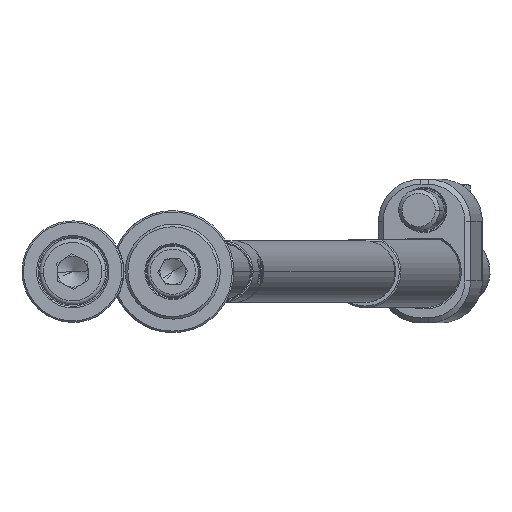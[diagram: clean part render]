
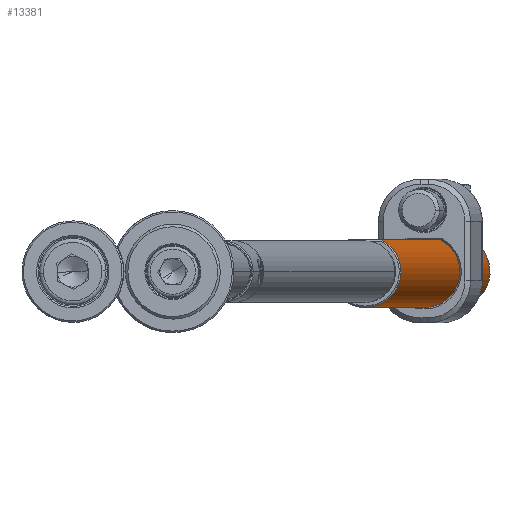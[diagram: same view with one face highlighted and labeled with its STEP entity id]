
A CAD part, front view. The second image highlights one B-rep face of the part: STEP entity #13381.
In plain terms, the highlighted cylindrical face has radius 7 mm (diameter 14 mm), a partial arc.
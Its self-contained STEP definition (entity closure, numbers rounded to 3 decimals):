
#555 = EDGE_CURVE ( 'NONE', #4462, #792, #14087, .T. ) ;
#693 = CARTESIAN_POINT ( 'NONE',  ( 5.78, -3.95, 9.275 ) ) ;
#792 = VERTEX_POINT ( 'NONE', #7894 ) ;
#995 = VERTEX_POINT ( 'NONE', #5182 ) ;
#1044 = EDGE_CURVE ( 'NONE', #4462, #3834, #14251, .T. ) ;
#1046 = CYLINDRICAL_SURFACE ( 'NONE', #11646, 7. ) ;
#1416 = CARTESIAN_POINT ( 'NONE',  ( 6.002, -3.604, 11.745 ) ) ;
#1558 = CARTESIAN_POINT ( 'NONE',  ( 5.876, -3.805, 8.752 ) ) ;
#1959 = VECTOR ( 'NONE', #4368, 1000. ) ;
#2122 = EDGE_CURVE ( 'NONE', #10967, #14265, #13225, .T. ) ;
#2189 = AXIS2_PLACEMENT_3D ( 'NONE', #7297, #12660, #2691 ) ;
#2328 = FACE_OUTER_BOUND ( 'NONE', #5246, .T. ) ;
#2459 = CARTESIAN_POINT ( 'NONE',  ( 6.1, -3.434, 12.052 ) ) ;
#2510 = VERTEX_POINT ( 'NONE', #14031 ) ;
#2691 = DIRECTION ( 'NONE',  ( 1., 0., 0. ) ) ;
#3178 = CARTESIAN_POINT ( 'NONE',  ( -7., 0., 200. ) ) ;
#3224 = CARTESIAN_POINT ( 'NONE',  ( 6.1, -3.434, 7.948 ) ) ;
#3834 = VERTEX_POINT ( 'NONE', #8389 ) ;
#3923 = CARTESIAN_POINT ( 'NONE',  ( 6.2, -3.25, 199.7 ) ) ;
#4067 = CARTESIAN_POINT ( 'NONE',  ( 6.1, -3.434, 12.052 ) ) ;
#4186 = CARTESIAN_POINT ( 'NONE',  ( 6.2, -3.25, 7.5 ) ) ;
#4223 = VERTEX_POINT ( 'NONE', #3923 ) ;
#4368 = DIRECTION ( 'NONE',  ( 0., 0., -1. ) ) ;
#4462 = VERTEX_POINT ( 'NONE', #4633 ) ;
#4517 = B_SPLINE_CURVE_WITH_KNOTS ( 'NONE', 3,
 ( #12470, #11386, #1416, #5875, #12207, #4981, #10673, #12688, #693, #1558, #10385, #7251, #12829, #5948 ),
 .UNSPECIFIED., .F., .F.,
 ( 4, 2, 2, 2, 2, 2, 4 ),
 ( 0., 0.001, 0.001, 0.003, 0.004, 0.004, 0.005 ),
 .UNSPECIFIED. ) ;
#4633 = CARTESIAN_POINT ( 'NONE',  ( 6.2, -3.25, 7.5 ) ) ;
#4981 = CARTESIAN_POINT ( 'NONE',  ( 5.781, -3.95, 10.729 ) ) ;
#5182 = CARTESIAN_POINT ( 'NONE',  ( -7., 0., 199.7 ) ) ;
#5205 = EDGE_CURVE ( 'NONE', #2510, #3834, #9166, .T. ) ;
#5246 = EDGE_LOOP ( 'NONE', ( #9023, #12393, #6261, #8579, #10918, #13735, #6921, #5433 ) ) ;
#5433 = ORIENTED_EDGE ( 'NONE', *, *, #8460, .F. ) ;
#5875 = CARTESIAN_POINT ( 'NONE',  ( 5.915, -3.744, 11.42 ) ) ;
#5921 = VECTOR ( 'NONE', #12485, 1000. ) ;
#5948 = CARTESIAN_POINT ( 'NONE',  ( 6.1, -3.434, 7.948 ) ) ;
#6261 = ORIENTED_EDGE ( 'NONE', *, *, #5205, .T. ) ;
#6338 = DIRECTION ( 'NONE',  ( 1., 0., 0. ) ) ;
#6395 = CARTESIAN_POINT ( 'NONE',  ( 6.131, -3.379, 7.796 ) ) ;
#6557 = CARTESIAN_POINT ( 'NONE',  ( 0., 0., 199.7 ) ) ;
#6577 = CARTESIAN_POINT ( 'NONE',  ( 6.2, -3.25, 200. ) ) ;
#6921 = ORIENTED_EDGE ( 'NONE', *, *, #2122, .T. ) ;
#7060 = CARTESIAN_POINT ( 'NONE',  ( 6.2, -3.25, 12.5 ) ) ;
#7251 = CARTESIAN_POINT ( 'NONE',  ( 6.001, -3.604, 8.256 ) ) ;
#7297 = CARTESIAN_POINT ( 'NONE',  ( 0., 0., 0.3 ) ) ;
#7636 = DIRECTION ( 'NONE',  ( 0., 0., -1. ) ) ;
#7862 = CARTESIAN_POINT ( 'NONE',  ( 6.164, -3.317, 12.354 ) ) ;
#7894 = CARTESIAN_POINT ( 'NONE',  ( 6.1, -3.434, 7.948 ) ) ;
#8142 = AXIS2_PLACEMENT_3D ( 'NONE', #6557, #9905, #6338 ) ;
#8154 = CIRCLE ( 'NONE', #8142, 7. ) ;
#8389 = CARTESIAN_POINT ( 'NONE',  ( 6.2, -3.25, 0.3 ) ) ;
#8460 = EDGE_CURVE ( 'NONE', #4223, #14265, #10037, .T. ) ;
#8579 = ORIENTED_EDGE ( 'NONE', *, *, #1044, .F. ) ;
#8679 = DIRECTION ( 'NONE',  ( 0., 0., -1. ) ) ;
#8819 = DIRECTION ( 'NONE',  ( -1., 0., 0. ) ) ;
#9023 = ORIENTED_EDGE ( 'NONE', *, *, #12162, .T. ) ;
#9166 = CIRCLE ( 'NONE', #2189, 7. ) ;
#9905 = DIRECTION ( 'NONE',  ( 0., 0., -1. ) ) ;
#10037 = LINE ( 'NONE', #12282, #5921 ) ;
#10062 = EDGE_CURVE ( 'NONE', #10967, #792, #4517, .T. ) ;
#10385 = CARTESIAN_POINT ( 'NONE',  ( 5.915, -3.744, 8.582 ) ) ;
#10673 = CARTESIAN_POINT ( 'NONE',  ( 5.745, -4., 10.372 ) ) ;
#10898 = CARTESIAN_POINT ( 'NONE',  ( 6.164, -3.317, 7.646 ) ) ;
#10918 = ORIENTED_EDGE ( 'NONE', *, *, #555, .T. ) ;
#10967 = VERTEX_POINT ( 'NONE', #4067 ) ;
#11009 = CARTESIAN_POINT ( 'NONE',  ( 0., 0., 200. ) ) ;
#11044 = EDGE_CURVE ( 'NONE', #995, #2510, #13161, .T. ) ;
#11386 = CARTESIAN_POINT ( 'NONE',  ( 6.049, -3.524, 11.901 ) ) ;
#11646 = AXIS2_PLACEMENT_3D ( 'NONE', #11009, #8679, #8819 ) ;
#12162 = EDGE_CURVE ( 'NONE', #4223, #995, #8154, .T. ) ;
#12207 = CARTESIAN_POINT ( 'NONE',  ( 5.876, -3.804, 11.25 ) ) ;
#12282 = CARTESIAN_POINT ( 'NONE',  ( 6.2, -3.25, 200. ) ) ;
#12393 = ORIENTED_EDGE ( 'NONE', *, *, #11044, .T. ) ;
#12470 = CARTESIAN_POINT ( 'NONE',  ( 6.1, -3.434, 12.052 ) ) ;
#12485 = DIRECTION ( 'NONE',  ( 0., 0., -1. ) ) ;
#12660 = DIRECTION ( 'NONE',  ( 0., 0., 1. ) ) ;
#12688 = CARTESIAN_POINT ( 'NONE',  ( 5.744, -4., 9.635 ) ) ;
#12829 = CARTESIAN_POINT ( 'NONE',  ( 6.049, -3.524, 8.099 ) ) ;
#13161 = LINE ( 'NONE', #3178, #13471 ) ;
#13225 = B_SPLINE_CURVE_WITH_KNOTS ( 'NONE', 3,
 ( #2459, #13450, #7862, #13519 ),
 .UNSPECIFIED., .F., .F.,
 ( 4, 4 ),
 ( 0., 0. ),
 .UNSPECIFIED. ) ;
#13381 = ADVANCED_FACE ( 'NONE', ( #2328 ), #1046, .T. ) ;
#13450 = CARTESIAN_POINT ( 'NONE',  ( 6.131, -3.379, 12.204 ) ) ;
#13471 = VECTOR ( 'NONE', #7636, 1000. ) ;
#13519 = CARTESIAN_POINT ( 'NONE',  ( 6.2, -3.25, 12.5 ) ) ;
#13735 = ORIENTED_EDGE ( 'NONE', *, *, #10062, .F. ) ;
#14031 = CARTESIAN_POINT ( 'NONE',  ( -7., 0., 0.3 ) ) ;
#14087 = B_SPLINE_CURVE_WITH_KNOTS ( 'NONE', 3,
 ( #4186, #10898, #6395, #3224 ),
 .UNSPECIFIED., .F., .F.,
 ( 4, 4 ),
 ( 0., 0. ),
 .UNSPECIFIED. ) ;
#14251 = LINE ( 'NONE', #6577, #1959 ) ;
#14265 = VERTEX_POINT ( 'NONE', #7060 ) ;
